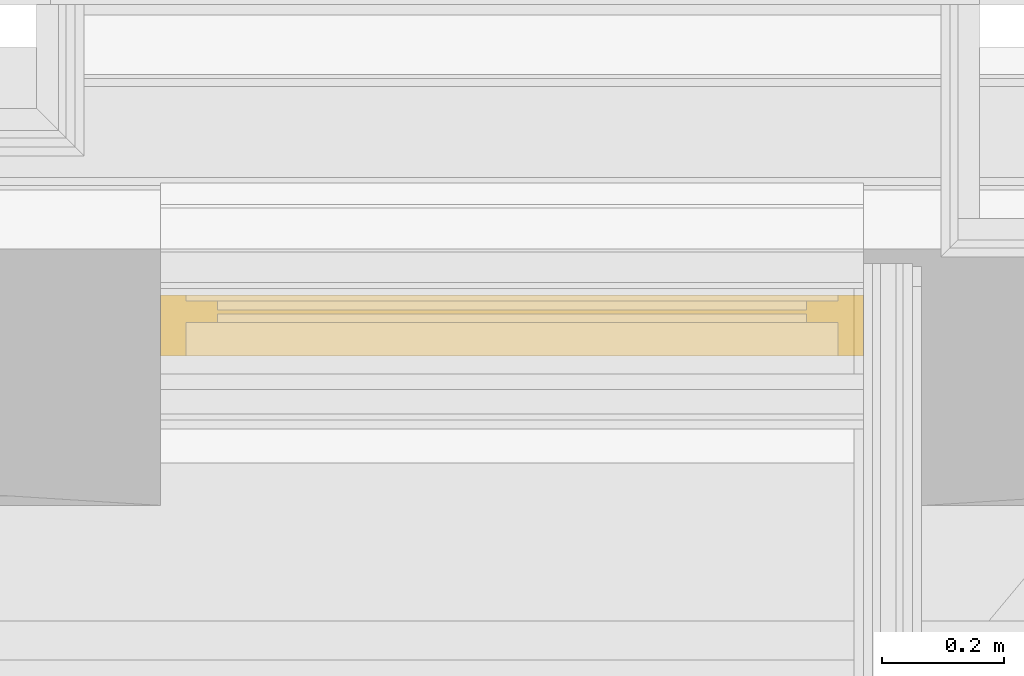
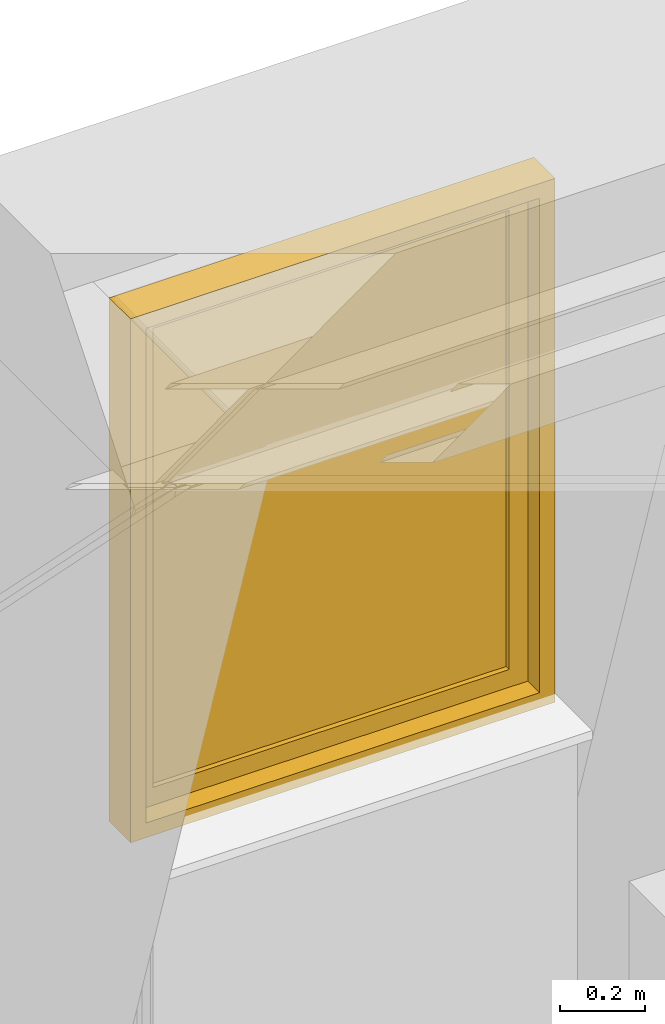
# One storey, part 149 of 183: 1 window.
"""IFC2X3 building model written with IfcOpenShell, lengths in metres."""

from ifc_helpers import new_model, entity, si_unit, converted_unit, derived_unit, money_unit, direction, frame, origin_with_axes, place, context, subcontext, project, spatial, faceted_brep, material, type_object, element, save


model = new_model("IFC2X3")

# Units and contexts
model_context = context("Model", 3, precision=1e-05, world=origin_with_axes(), true_north=direction((0.0, 1.0)))
body_context = subcontext(model_context, "Body", "Model", "MODEL_VIEW", scale=1.0)
ifc_project = project(units=[si_unit("LENGTHUNIT", "METRE"), si_unit("AREAUNIT", "SQUARE_METRE"), si_unit("VOLUMEUNIT", "CUBIC_METRE"), si_unit("ABSORBEDDOSEUNIT", "GRAY"), si_unit("AMOUNTOFSUBSTANCEUNIT", "MOLE"), si_unit("DOSEEQUIVALENTUNIT", "SIEVERT"), si_unit("ELECTRICCAPACITANCEUNIT", "FARAD"), si_unit("ELECTRICCHARGEUNIT", "COULOMB"), si_unit("ELECTRICCONDUCTANCEUNIT", "SIEMENS"), si_unit("ELECTRICCURRENTUNIT", "AMPERE"), si_unit("ELECTRICRESISTANCEUNIT", "OHM"), si_unit("ELECTRICVOLTAGEUNIT", "VOLT"), si_unit("ENERGYUNIT", "JOULE"), si_unit("FORCEUNIT", "NEWTON"), si_unit("FREQUENCYUNIT", "HERTZ"), si_unit("ILLUMINANCEUNIT", "LUX"), si_unit("INDUCTANCEUNIT", "HENRY"), si_unit("LUMINOUSFLUXUNIT", "LUMEN"), si_unit("LUMINOUSINTENSITYUNIT", "CANDELA"), si_unit("MAGNETICFLUXDENSITYUNIT", "TESLA"), si_unit("MAGNETICFLUXUNIT", "WEBER"), si_unit("MASSUNIT", "GRAM"), converted_unit("PLANEANGLEUNIT", "degree", entity("IfcReal", 0.0174532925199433), si_unit("PLANEANGLEUNIT", "RADIAN"), dimensions=[0, 0, 0, 0, 0, 0, 0]), si_unit("POWERUNIT", "WATT"), si_unit("PRESSUREUNIT", "PASCAL"), si_unit("RADIOACTIVITYUNIT", "BECQUEREL"), si_unit("SOLIDANGLEUNIT", "STERADIAN"), si_unit("THERMODYNAMICTEMPERATUREUNIT", "KELVIN"), si_unit("TIMEUNIT", "SECOND"), derived_unit("ACCELERATIONUNIT", [(si_unit("LENGTHUNIT", "METRE"), 1), (si_unit("TIMEUNIT", "SECOND"), -2)]), derived_unit("ANGULARVELOCITYUNIT", [(converted_unit("PLANEANGLEUNIT", "degree", entity("IfcReal", 0.0174532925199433), si_unit("PLANEANGLEUNIT", "RADIAN"), dimensions=[0, 0, 0, 0, 0, 0, 0]), 1), (si_unit("TIMEUNIT", "SECOND"), -1)]), derived_unit("CURVATUREUNIT", [(converted_unit("PLANEANGLEUNIT", "degree", entity("IfcReal", 0.0174532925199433), si_unit("PLANEANGLEUNIT", "RADIAN"), dimensions=[0, 0, 0, 0, 0, 0, 0]), 1), (si_unit("LENGTHUNIT", "METRE"), -1)]), derived_unit("DYNAMICVISCOSITYUNIT", [(si_unit("PRESSUREUNIT", "PASCAL"), 1), (si_unit("TIMEUNIT", "SECOND"), 1)]), derived_unit("HEATFLUXDENSITYUNIT", [(si_unit("POWERUNIT", "WATT"), 1), (si_unit("LENGTHUNIT", "METRE"), -2)]), derived_unit("HEATINGVALUEUNIT", [(si_unit("ENERGYUNIT", "JOULE"), 1), (si_unit("MASSUNIT", "GRAM"), -1)]), derived_unit("INTEGERCOUNTRATEUNIT", [(si_unit("TIMEUNIT", "SECOND"), -1)]), derived_unit("IONCONCENTRATIONUNIT", [(si_unit("MASSUNIT", "GRAM"), 1), (si_unit("VOLUMEUNIT", "CUBIC_METRE"), -1)]), derived_unit("ISOTHERMALMOISTURECAPACITYUNIT", [(si_unit("VOLUMEUNIT", "CUBIC_METRE"), 1), (si_unit("MASSUNIT", "GRAM"), -1)]), derived_unit("KINEMATICVISCOSITYUNIT", [(si_unit("AREAUNIT", "SQUARE_METRE"), 1), (si_unit("TIMEUNIT", "SECOND"), -1)]), derived_unit("LINEARFORCEUNIT", [(si_unit("FORCEUNIT", "NEWTON"), 1), (si_unit("LENGTHUNIT", "METRE"), -1)]), derived_unit("LINEARMOMENTUNIT", [(si_unit("FORCEUNIT", "NEWTON"), 1), (si_unit("LENGTHUNIT", "METRE"), -1)]), derived_unit("LINEARSTIFFNESSUNIT", [(si_unit("FORCEUNIT", "NEWTON"), 1), (si_unit("LENGTHUNIT", "METRE"), -1)]), derived_unit("LINEARVELOCITYUNIT", [(si_unit("LENGTHUNIT", "METRE"), 1), (si_unit("TIMEUNIT", "SECOND"), -1)]), derived_unit("LUMINOUSINTENSITYDISTRIBUTIONUNIT", [(si_unit("LUMINOUSINTENSITYUNIT", "CANDELA"), 1), (si_unit("LUMINOUSFLUXUNIT", "LUMEN"), -1)]), derived_unit("MASSDENSITYUNIT", [(si_unit("MASSUNIT", "GRAM"), 1), (si_unit("VOLUMEUNIT", "CUBIC_METRE"), -1)]), derived_unit("MASSFLOWRATEUNIT", [(si_unit("MASSUNIT", "GRAM"), 1), (si_unit("TIMEUNIT", "SECOND"), -1)]), derived_unit("MASSPERLENGTHUNIT", [(si_unit("MASSUNIT", "GRAM"), 1), (si_unit("LENGTHUNIT", "METRE"), -1)]), derived_unit("MODULUSOFELASTICITYUNIT", [(si_unit("FORCEUNIT", "NEWTON"), 1), (si_unit("AREAUNIT", "SQUARE_METRE"), -1)]), derived_unit("MODULUSOFLINEARSUBGRADEREACTIONUNIT", [(si_unit("FORCEUNIT", "NEWTON"), 1), (si_unit("LENGTHUNIT", "METRE"), -2)]), derived_unit("MODULUSOFROTATIONALSUBGRADEREACTIONUNIT", [(si_unit("FORCEUNIT", "NEWTON"), 1), (si_unit("LENGTHUNIT", "METRE"), 1)]), derived_unit("MODULUSOFSUBGRADEREACTIONUNIT", [(si_unit("FORCEUNIT", "NEWTON"), 1), (si_unit("VOLUMEUNIT", "CUBIC_METRE"), -1)]), derived_unit("MOISTUREDIFFUSIVITYUNIT", [(si_unit("VOLUMEUNIT", "CUBIC_METRE"), 1), (si_unit("TIMEUNIT", "SECOND"), -1)]), derived_unit("MOLECULARWEIGHTUNIT", [(si_unit("MASSUNIT", "GRAM"), 1), (si_unit("AMOUNTOFSUBSTANCEUNIT", "MOLE"), -1)]), derived_unit("PLANARFORCEUNIT", [(si_unit("FORCEUNIT", "NEWTON"), 1), (si_unit("LENGTHUNIT", "METRE"), -2)]), derived_unit("ROTATIONALFREQUENCYUNIT", [(si_unit("TIMEUNIT", "SECOND"), -1)]), derived_unit("ROTATIONALMASSUNIT", [(si_unit("MASSUNIT", "GRAM"), 1), (si_unit("LENGTHUNIT", "METRE"), 2)]), derived_unit("ROTATIONALSTIFFNESSUNIT", [(si_unit("FORCEUNIT", "NEWTON"), 1), (si_unit("LENGTHUNIT", "METRE"), 1), (converted_unit("PLANEANGLEUNIT", "degree", entity("IfcReal", 0.0174532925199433), si_unit("PLANEANGLEUNIT", "RADIAN"), dimensions=[0, 0, 0, 0, 0, 0, 0]), -1)]), derived_unit("SECTIONAREAINTEGRALUNIT", [(si_unit("LENGTHUNIT", "METRE"), 5)]), derived_unit("SECTIONMODULUSUNIT", [(si_unit("LENGTHUNIT", "METRE"), 3)]), derived_unit("SHEARMODULUSUNIT", [(si_unit("FORCEUNIT", "NEWTON"), 1), (si_unit("AREAUNIT", "SQUARE_METRE"), -1)]), derived_unit("SOUNDPOWERUNIT", [(si_unit("ENERGYUNIT", "JOULE"), 1), (si_unit("TIMEUNIT", "SECOND"), -1)]), derived_unit("SPECIFICHEATCAPACITYUNIT", [(si_unit("FORCEUNIT", "NEWTON"), 1), (si_unit("MASSUNIT", "GRAM"), -1), (si_unit("THERMODYNAMICTEMPERATUREUNIT", "KELVIN"), -1)]), derived_unit("TEMPERATUREGRADIENTUNIT", [(si_unit("THERMODYNAMICTEMPERATUREUNIT", "KELVIN"), 1), (si_unit("LENGTHUNIT", "METRE"), -1)]), derived_unit("THERMALADMITTANCEUNIT", [(si_unit("POWERUNIT", "WATT"), 1), (si_unit("AREAUNIT", "SQUARE_METRE"), -1), (si_unit("THERMODYNAMICTEMPERATUREUNIT", "KELVIN"), -1)]), derived_unit("THERMALCONDUCTANCEUNIT", [(si_unit("POWERUNIT", "WATT"), 1), (si_unit("LENGTHUNIT", "METRE"), -1), (si_unit("THERMODYNAMICTEMPERATUREUNIT", "KELVIN"), -1)]), derived_unit("THERMALEXPANSIONCOEFFICIENTUNIT", [(si_unit("THERMODYNAMICTEMPERATUREUNIT", "KELVIN"), -1)]), derived_unit("THERMALRESISTANCEUNIT", [(si_unit("AREAUNIT", "SQUARE_METRE"), 1), (si_unit("POWERUNIT", "WATT"), -1)]), derived_unit("THERMALTRANSMITTANCEUNIT", [(si_unit("POWERUNIT", "WATT"), 1), (si_unit("AREAUNIT", "SQUARE_METRE"), -1), (si_unit("THERMODYNAMICTEMPERATUREUNIT", "KELVIN"), -1)]), derived_unit("TORQUEUNIT", [(si_unit("FORCEUNIT", "NEWTON"), 1), (si_unit("LENGTHUNIT", "METRE"), 1)]), derived_unit("VAPORPERMEABILITYUNIT", [(si_unit("MASSUNIT", "GRAM"), 1), (si_unit("TIMEUNIT", "SECOND"), -1)]), derived_unit("VOLUMETRICFLOWRATEUNIT", [(si_unit("VOLUMEUNIT", "CUBIC_METRE"), 1), (si_unit("TIMEUNIT", "SECOND"), -1)]), derived_unit("WARPINGCONSTANTUNIT", [(si_unit("LENGTHUNIT", "METRE"), 6)]), derived_unit("WARPINGMOMENTUNIT", [(si_unit("FORCEUNIT", "NEWTON"), 1), (si_unit("LENGTHUNIT", "METRE"), 2)]), money_unit("GBP")], contexts=[model_context])

# Site, building, storey, space
site_placement = place(None, origin_with_axes())
site = spatial("IfcSite", under=ifc_project, at=site_placement, Name="Site", CompositionType="ELEMENT")
building_placement = place(site_placement, origin_with_axes())
building = spatial("IfcBuilding", under=site, at=building_placement, Name="Building01", CompositionType="ELEMENT")
storey_placement = place(building_placement, frame((0.0, 0.0, 5.15), z_axis=(0.0, 0.0, 1.0), x_axis=(1.0, 0.0, 0.0)))
storey = spatial("IfcBuildingStorey", under=building, at=storey_placement, Name="1F", CompositionType="ELEMENT", Elevation=5.15)
space_placement = place(storey_placement, frame((17.359976, 10.179939, 9.81), z_axis=(0.0, 0.0, 1.0), x_axis=(1.261e-05, 1.0, 0.0)))
space = spatial("IfcSpace", under=storey, at=space_placement, Name="1", CompositionType="ELEMENT", InteriorOrExteriorSpace="NOTDEFINED")

# Window
ifc_material = material(Name="A_BSUK_Windows")
window_style = type_object("IfcWindowStyle", Name="A-Awning", ConstructionType="NOTDEFINED", OperationType="USERDEFINED", ParameterTakesPrecedence=False, Sizeable=False)
window_placement = place(storey_placement, frame((16.210024, 14.350061, 10.78), z_axis=(0.0, 0.0, 1.0), x_axis=(-1.0, 0.0, 0.0)))
element("IfcWindow", 1, at=window_placement, inside=space, type_object=window_style, material=ifc_material, Name="4.20", ObjectType="A-Awning", OverallHeight=1.50000000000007, OverallWidth=1.15000000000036, context=body_context, shape_type="Brep", body=[
    faceted_brep([(-1.108, 0.0254, 0.042), (-0.042, 0.0254, 0.042), (-0.042, 0.1254, 0.042), (-1.108, 0.1254, 0.042), (-1.108, 0.0254, 1.458), (-1.108, 0.1254, 1.458), (-0.042, 0.0254, 1.458), (-0.042, 0.1254, 1.458), (0.0, 0.0254, 0.0), (0.0, 0.0254, 1.5), (-1.15, 0.0254, 1.5), (-1.15, 0.0254, 0.0), (0.0, 0.1254, 1.5), (-1.15, 0.1254, 1.5), (-1.15, 0.1254, 0.0), (0.0, 0.1254, 0.0)], [[[0, 1, 2, 3]], [[4, 0, 3, 5]], [[6, 4, 5, 7]], [[8, 9, 10, 11], [4, 6, 1, 0]], [[1, 6, 7, 2]], [[12, 13, 10, 9]], [[14, 15, 8, 11]], [[13, 14, 11, 10]], [[13, 12, 15, 14], [2, 7, 5, 3]], [[15, 12, 9, 8]]]),
    faceted_brep([(-1.0572, 0.0354, 0.0928), (-0.0928, 0.0354, 0.0928), (-0.0928, 0.0704, 0.0928), (-1.0572, 0.0704, 0.0928), (-1.0572, 0.0354, 1.4072), (-1.0572, 0.0704, 1.4072), (-0.0928, 0.0354, 1.4072), (-0.0928, 0.0704, 1.4072), (-1.108, 0.0704, 1.458), (-0.042, 0.0704, 1.458), (-0.042, 0.0704, 0.042), (-1.108, 0.0704, 0.042), (-1.108, 0.0354, 1.458), (-0.042, 0.0354, 1.458), (-0.042, 0.0354, 0.042), (-1.108, 0.0354, 0.042)], [[[0, 1, 2, 3]], [[4, 0, 3, 5]], [[6, 4, 5, 7]], [[8, 9, 10, 11], [2, 7, 5, 3]], [[9, 8, 12, 13]], [[10, 9, 13, 14]], [[11, 10, 14, 15]], [[8, 11, 15, 12]], [[14, 13, 12, 15], [4, 6, 1, 0]], [[1, 6, 7, 2]]]),
    faceted_brep([(-0.0928, 0.049725, 0.0928), (-0.0928, 0.056075, 0.0928), (-0.0928, 0.056075, 1.4072), (-0.0928, 0.049725, 1.4072), (-1.0572, 0.049725, 1.4072), (-1.0572, 0.056075, 1.4072), (-1.0572, 0.056075, 0.0928), (-1.0572, 0.049725, 0.0928)], [[[0, 1, 2, 3]], [[4, 5, 6, 7]], [[3, 2, 5, 4]], [[3, 4, 7, 0]], [[7, 6, 1, 0]], [[1, 6, 5, 2]]]),
])

save(model, "model.ifc")
